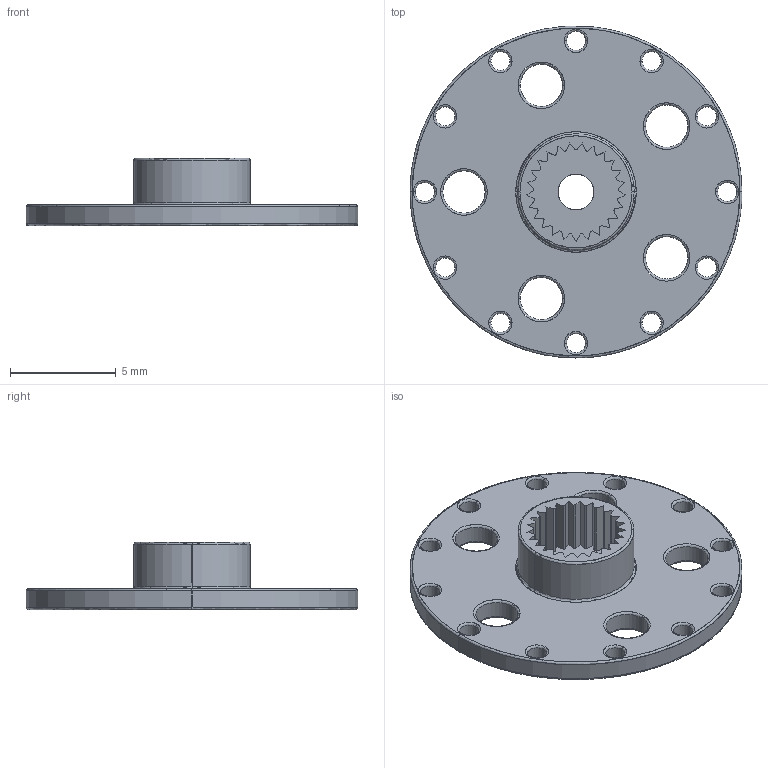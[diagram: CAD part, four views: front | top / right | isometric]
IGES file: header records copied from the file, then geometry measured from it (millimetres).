
Start section: SolidWorks IGES file using analytic representation for surfaces
Global section: file name: C:\Users\Alexandre\Dropbox\Etudes\Solidworks\Servo Mounts\Micro sized Servo Mount - Round_Default.igs; native system: SolidWorks 2015; preprocessor: SolidWorks 2015; author: Alexandre; date: 150906.125413; units: millimetre
Bounding box: 15.7 x 15.7 x 3.2 mm (x, y, z)
Surface area: 538.7 mm2 (no closed solid volume)
Topology: 0 solids, 0 shells, 200 faces, 1858 edges, 1858 vertices
Faces by surface type: bspline 133, revolution 67
